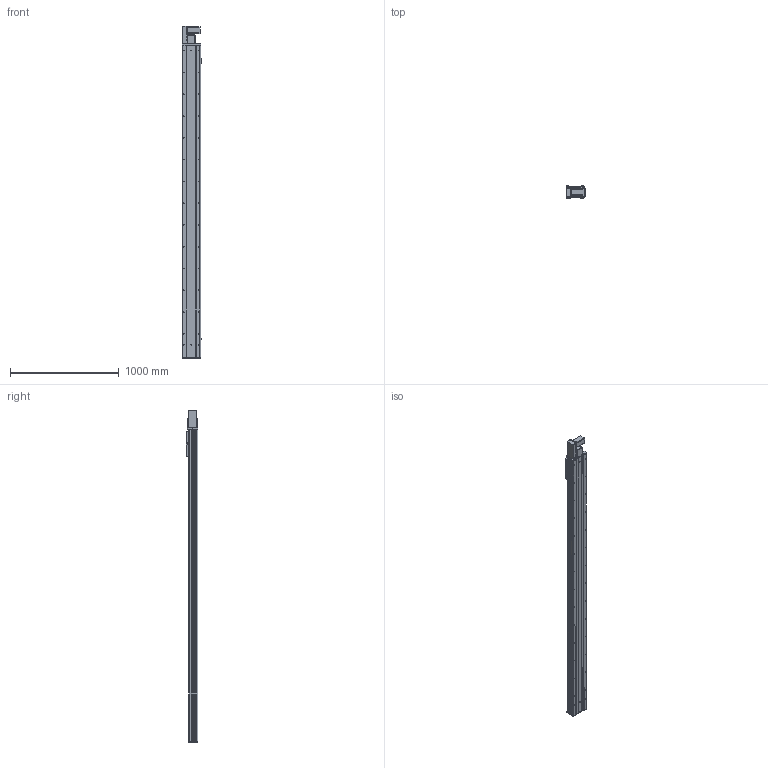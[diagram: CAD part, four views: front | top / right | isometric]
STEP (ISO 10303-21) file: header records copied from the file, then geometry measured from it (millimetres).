
FILE_DESCRIPTION (( 'STEP AP203' ), '1' );
FILE_NAME ('Y170CB-D105-S2550-BL-P400W.STEP', '2020-02-20T01:48:54', ( '微软用户' ), ( '微软中国' ), 'SwSTEP 2.0', 'SolidWorks 2017', '' );
FILE_SCHEMA (( 'CONFIG_CONTROL_DESIGN' ));
Length unit declared in the file: millimetre
Products named in the file (18): Y100-135俋离換覜ん--; 70CB-掛极-; Y170CB-陔俋离換覜結え---; --70CB --喘謫眊楊擘啣-; 70B喘謫眊----; 70CB-耜裔啣-; B-源倛裔啣; Y1埴倛裔; 70C--詩湍揤踡え-; 17B-耜蚾蟀諉啣----; Y170CB-D105-S2550-BL-P400W; 70CB--耜裔; 0B-萇儂楊擘啣; 70C-雄赽釱-奻-; 0C--雄赽釱俋欶-170; san松下电机400不带刹车----; 70CB-詩湍--; Y70俋欶BR----
Assembly tree (21 placements, depth 2):
  Y170CB-D105-S2550-BL-P400W
    B-源倛裔啣
    17B-耜蚾蟀諉啣----
    0B-萇儂楊擘啣
    san松下电机400不带刹车----
    Y70俋欶BR----
    70CB-掛极-
    --70CB --喘謫眊楊擘啣-
    70CB-耜裔啣-  x2
    70C--詩湍揤踡え-  x2
    70CB--耜裔
    70C-雄赽釱-奻-
    0C--雄赽釱俋欶-170
    70CB-詩湍--
    Y100-135俋离換覜ん--  x3
    Y170CB-陔俋离換覜結え---
    70B喘謫眊----
    Y1埴倛裔
Bounding box: 183.5 x 107 x 3047 mm (x, y, z)
Volume: 12640186.7 mm3; surface area: 4563403 mm2
Topology: 21 solids, 21 shells, 1071 faces, 2885 edges, 1914 vertices
Faces by surface type: cylinder 583, plane 464, cone 24
Entity records: 34364 total; most frequent: CARTESIAN_POINT 6336, DIRECTION 5590, ORIENTED_EDGE 5252, EDGE_CURVE 2626, AXIS2_PLACEMENT_3D 2064, VERTEX_POINT 1744, VECTOR 1462, LINE 1462
